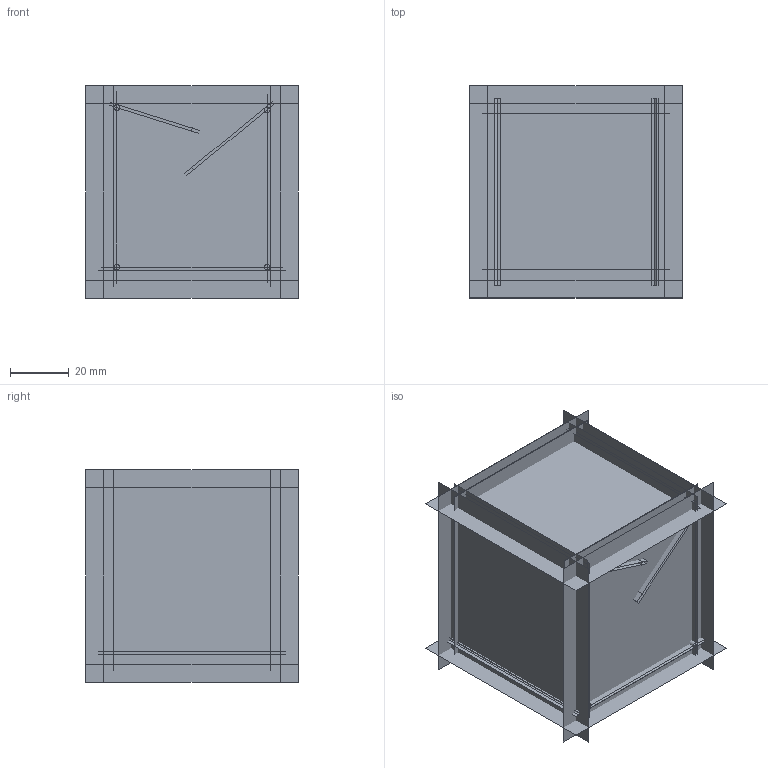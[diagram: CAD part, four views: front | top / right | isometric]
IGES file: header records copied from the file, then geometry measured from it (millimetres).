
Global section: file name: C:\Users\utente\Desktop\3d sito\CUBO\cubo S.igs; native system: Rhinoceros ( Mar  9 2011 ); preprocessor: Trout Lake IGES 012 Mar  9 2011; date: 170517.135219; units: millimetre
Bounding box: 72 x 72 x 72 mm (x, y, z)
Surface area: 95866.2 mm2 (no closed solid volume)
Topology: 0 solids, 0 shells, 29 faces, 112 edges, 108 vertices
Faces by surface type: bspline 29
